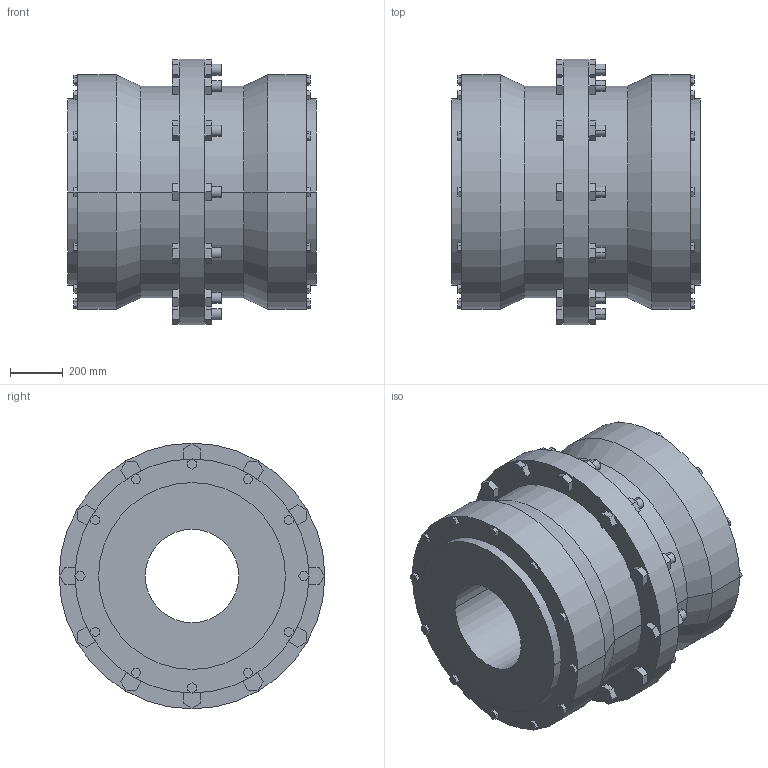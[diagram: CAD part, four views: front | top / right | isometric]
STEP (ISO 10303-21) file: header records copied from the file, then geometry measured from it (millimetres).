
FILE_DESCRIPTION((''),'2;1');
FILE_NAME('A18988000-0_ASM','2018-09-26T',('AB_Roschiwal'),('RENK AG'),'PRO/ENGINEER BY PARAMETRIC TECHNOLOGY CORPORATION, 2015440','PRO/ENGINEER BY PARAMETRIC TECHNOLOGY CORPORATION, 2015440','');
FILE_SCHEMA(('CONFIG_CONTROL_DESIGN'));
Length unit declared in the file: millimetre
Products named in the file (3): SBK425_GEHAEUSE; SBK425_NABE; A18988000-0_ASM
Assembly tree (3 placements, depth 2):
  A18988000-0_ASM
    SBK425_GEHAEUSE
    SBK425_NABE  x2
Bounding box: 945 x 1010 x 1010 mm (x, y, z)
Volume: 437474385.3 mm3; surface area: 10036646.4 mm2
Topology: 3 solids, 3 shells, 422 faces, 1036 edges, 688 vertices
Faces by surface type: plane 362, cylinder 56, cone 4
Entity records: 12052 total; most frequent: CARTESIAN_POINT 2100, ORIENTED_EDGE 2024, DIRECTION 1940, EDGE_CURVE 1012, VECTOR 916, LINE 916, VERTEX_POINT 672, AXIS2_PLACEMENT_3D 512
